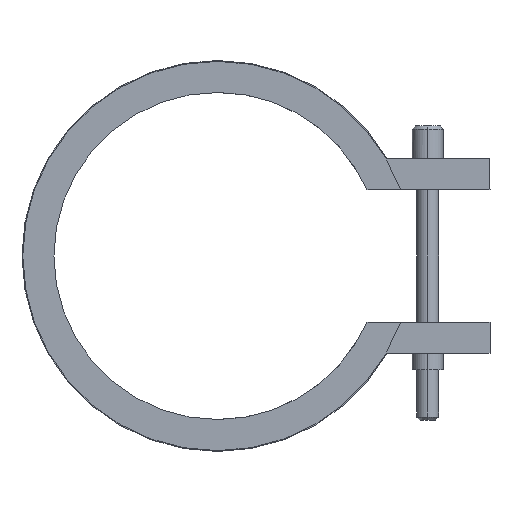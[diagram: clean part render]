
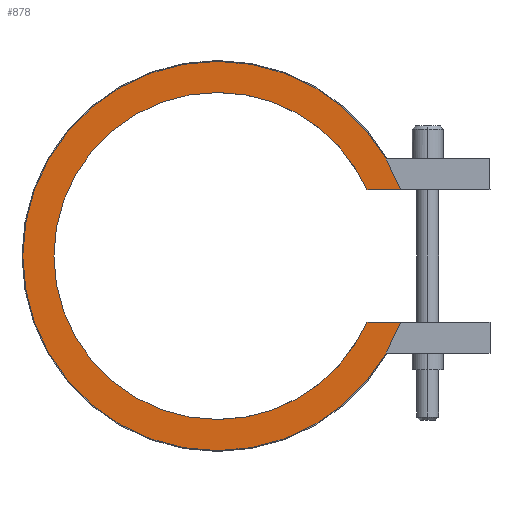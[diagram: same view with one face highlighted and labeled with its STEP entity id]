
A CAD part, left-side view. The second image highlights one B-rep face of the part: STEP entity #878.
In plain terms, the highlighted planar face has unit normal (-1, 0, 0).
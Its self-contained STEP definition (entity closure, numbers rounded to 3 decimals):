
#416=CARTESIAN_POINT('Vertex',(-20.,-19.203,-8.5)) ;
#419=CARTESIAN_POINT('Line Origine',(-20.,-21.357,-8.5)) ;
#423=CARTESIAN_POINT('Vertex',(-20.,-23.511,-8.5)) ;
#469=CARTESIAN_POINT('Vertex',(-20.,0.,-25.)) ;
#472=CARTESIAN_POINT('Axis2P3D Location',(-20.,0.,0.)) ;
#493=CARTESIAN_POINT('Vertex',(-20.,0.,25.)) ;
#496=CARTESIAN_POINT('Axis2P3D Location',(-20.,0.,0.)) ;
#508=CARTESIAN_POINT('Axis2P3D Location',(-20.,0.,0.)) ;
#512=CARTESIAN_POINT('Vertex',(-20.,-23.511,8.5)) ;
#532=CARTESIAN_POINT('Line Origine',(-20.,-21.357,8.5)) ;
#536=CARTESIAN_POINT('Vertex',(-20.,-19.203,8.5)) ;
#824=CARTESIAN_POINT('Axis2P3D Location',(-20.,0.,0.)) ;
#828=CARTESIAN_POINT('Vertex',(-20.,0.,-21.)) ;
#851=CARTESIAN_POINT('Axis2P3D Location',(-20.,0.,0.)) ;
#856=CARTESIAN_POINT('Axis2P3D Location',(-20.,0.,0.)) ;
#860=CARTESIAN_POINT('Vertex',(-20.,0.,21.)) ;
#863=CARTESIAN_POINT('Axis2P3D Location',(-20.,0.,0.)) ;
#420=DIRECTION('Vector Direction',(0.,1.,0.)) ;
#473=DIRECTION('Axis2P3D Direction',(1.,0.,-0.)) ;
#497=DIRECTION('Axis2P3D Direction',(1.,0.,-0.)) ;
#509=DIRECTION('Axis2P3D Direction',(1.,0.,-0.)) ;
#533=DIRECTION('Vector Direction',(0.,-1.,0.)) ;
#825=DIRECTION('Axis2P3D Direction',(1.,0.,-0.)) ;
#852=DIRECTION('Axis2P3D Direction',(1.,0.,0.)) ;
#853=DIRECTION('Axis2P3D XDirection',(0.,0.,-1.)) ;
#857=DIRECTION('Axis2P3D Direction',(1.,0.,0.)) ;
#864=DIRECTION('Axis2P3D Direction',(1.,0.,0.)) ;
#474=AXIS2_PLACEMENT_3D('Circle Axis2P3D',#472,#473,$) ;
#498=AXIS2_PLACEMENT_3D('Circle Axis2P3D',#496,#497,$) ;
#510=AXIS2_PLACEMENT_3D('Circle Axis2P3D',#508,#509,$) ;
#826=AXIS2_PLACEMENT_3D('Circle Axis2P3D',#824,#825,$) ;
#854=AXIS2_PLACEMENT_3D('Plane Axis2P3D',#851,#852,#853) ;
#858=AXIS2_PLACEMENT_3D('Circle Axis2P3D',#856,#857,$) ;
#865=AXIS2_PLACEMENT_3D('Circle Axis2P3D',#863,#864,$) ;
#869=ORIENTED_EDGE('',*,*,#425,.T.) ;
#870=ORIENTED_EDGE('',*,*,#830,.T.) ;
#871=ORIENTED_EDGE('',*,*,#862,.T.) ;
#872=ORIENTED_EDGE('',*,*,#867,.T.) ;
#873=ORIENTED_EDGE('',*,*,#538,.T.) ;
#874=ORIENTED_EDGE('',*,*,#514,.F.) ;
#875=ORIENTED_EDGE('',*,*,#500,.F.) ;
#876=ORIENTED_EDGE('',*,*,#476,.F.) ;
#421=VECTOR('Line Direction',#420,1.) ;
#534=VECTOR('Line Direction',#533,1.) ;
#878=ADVANCED_FACE('14042040',(#877),#855,.F.) ;
#475=CIRCLE('generated circle',#474,25.) ;
#499=CIRCLE('generated circle',#498,25.) ;
#511=CIRCLE('generated circle',#510,25.) ;
#827=CIRCLE('generated circle',#826,21.) ;
#859=CIRCLE('generated circle',#858,21.) ;
#866=CIRCLE('generated circle',#865,21.) ;
#425=EDGE_CURVE('',#424,#417,#422,.T.) ;
#476=EDGE_CURVE('',#424,#470,#475,.T.) ;
#500=EDGE_CURVE('',#470,#494,#499,.T.) ;
#514=EDGE_CURVE('',#494,#513,#511,.T.) ;
#538=EDGE_CURVE('',#537,#513,#535,.T.) ;
#830=EDGE_CURVE('',#417,#829,#827,.T.) ;
#862=EDGE_CURVE('',#829,#861,#859,.T.) ;
#867=EDGE_CURVE('',#861,#537,#866,.T.) ;
#868=EDGE_LOOP('',(#869,#870,#871,#872,#873,#874,#875,#876)) ;
#877=FACE_OUTER_BOUND('',#868,.T.) ;
#422=LINE('Line',#419,#421) ;
#535=LINE('Line',#532,#534) ;
#855=PLANE('Plane',#854) ;
#417=VERTEX_POINT('',#416) ;
#424=VERTEX_POINT('',#423) ;
#470=VERTEX_POINT('',#469) ;
#494=VERTEX_POINT('',#493) ;
#513=VERTEX_POINT('',#512) ;
#537=VERTEX_POINT('',#536) ;
#829=VERTEX_POINT('',#828) ;
#861=VERTEX_POINT('',#860) ;
